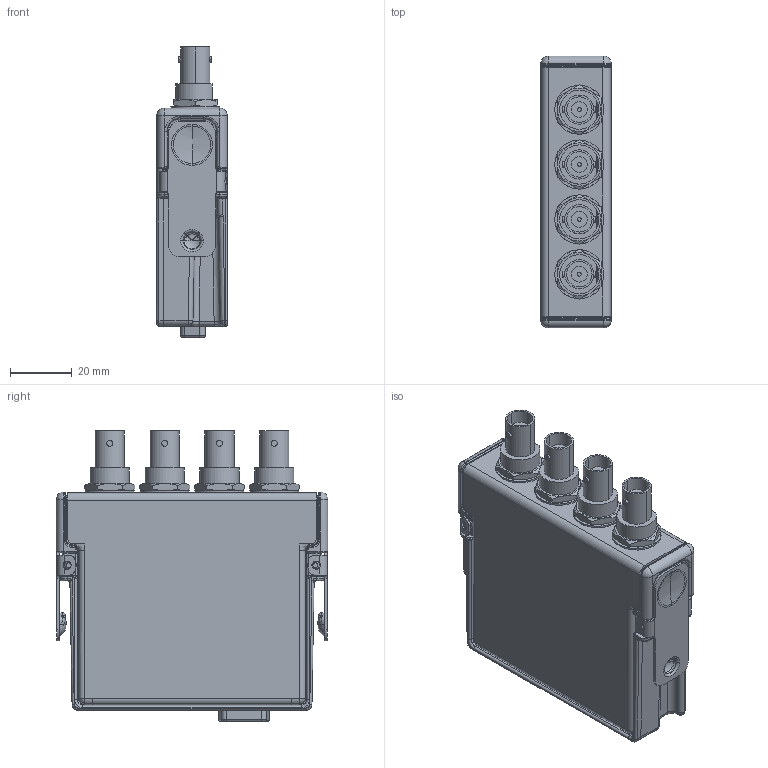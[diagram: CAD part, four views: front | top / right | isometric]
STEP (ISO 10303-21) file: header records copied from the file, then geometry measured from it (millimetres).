
FILE_DESCRIPTION((''),'2;1');
FILE_NAME('CART_CRIO_4_BNC_LVL6','2007-01-24T',('chrisj'),(''),'PRO/ENGINEER BY PARAMETRIC TECHNOLOGY CORPORATION, 2006080','PRO/ENGINEER BY PARAMETRIC TECHNOLOGY CORPORATION, 2006080','');
FILE_SCHEMA(('AUTOMOTIVE_DESIGN_CC2 { 1 2 10303 214 -1 1 5 2 }'));
Products named in the file (1): CART_CRIO_4_BNC_LVL6
Bounding box: 22.86 x 88.11 x 94.06 mm (x, y, z)
Volume: 55105.5 mm3; surface area: 53303.3 mm2
Topology: 13 solids, 13 shells, 1762 faces, 4253 edges, 2530 vertices
Faces by surface type: plane 656, cylinder 568, bspline 365, cone 68, torus 60, sphere 39, extrusion 6
Entity records: 72372 total; most frequent: CARTESIAN_POINT 34159, ORIENTED_EDGE 8362, DIRECTION 7179, EDGE_CURVE 4181, VERTEX_POINT 2568, AXIS2_PLACEMENT_3D 2563, VECTOR 2053, LINE 2047
